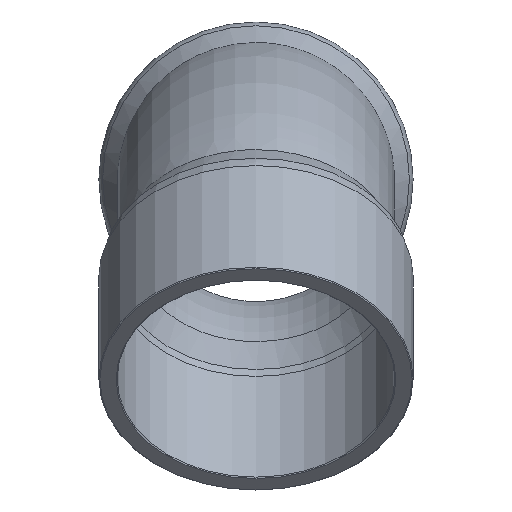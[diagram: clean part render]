
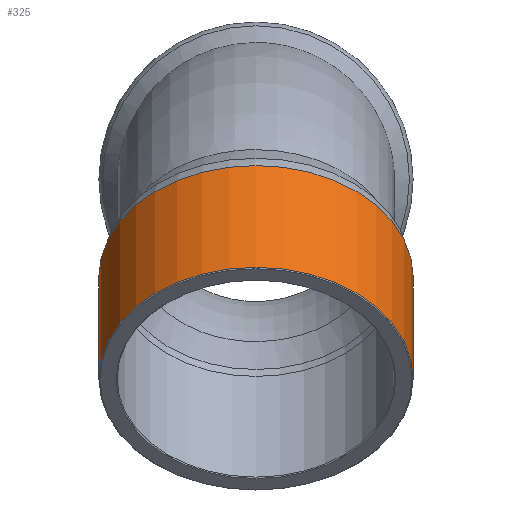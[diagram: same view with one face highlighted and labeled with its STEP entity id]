
A CAD part, top view. The second image highlights one B-rep face of the part: STEP entity #325.
In plain terms, the highlighted free-form (B-spline) face has degree [1, 2] with [2, 9] control points.
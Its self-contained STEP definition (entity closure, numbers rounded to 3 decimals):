
#273=CARTESIAN_POINT('',(0.,47.466,87.489));
#274=VERTEX_POINT('',#273);
#275=CARTESIAN_POINT('',(0.0,25.809,65.832));
#276=DIRECTION('',(0.0,-0.707,0.707));
#277=DIRECTION('',(0.0,-0.707,-0.707));
#278=AXIS2_PLACEMENT_3D('',#275,#276,#277);
#279=CIRCLE('',#278,30.628);
#280=EDGE_CURVE('',#274,#274,#279,.T.);
#285=CARTESIAN_POINT('',(0.,45.671,2.656));
#286=CARTESIAN_POINT('',(0.,-17.504,65.832));
#287=CARTESIAN_POINT('',(-30.628,45.671,2.656));
#288=CARTESIAN_POINT('',(-30.628,-17.504,65.832));
#289=CARTESIAN_POINT('',(-30.628,67.328,24.313));
#290=CARTESIAN_POINT('',(-30.628,4.152,87.489));
#291=CARTESIAN_POINT('',(-30.628,88.985,45.97));
#292=CARTESIAN_POINT('',(-30.628,25.809,109.145));
#293=CARTESIAN_POINT('',(0.,88.985,45.97));
#294=CARTESIAN_POINT('',(0.,25.809,109.145));
#295=CARTESIAN_POINT('',(30.628,88.985,45.97));
#296=CARTESIAN_POINT('',(30.628,25.809,109.145));
#297=CARTESIAN_POINT('',(30.628,67.328,24.313));
#298=CARTESIAN_POINT('',(30.628,4.152,87.489));
#299=CARTESIAN_POINT('',(30.628,45.671,2.656));
#300=CARTESIAN_POINT('',(30.628,-17.504,65.832));
#301=CARTESIAN_POINT('',(0.,45.671,2.656));
#302=CARTESIAN_POINT('',(0.,-17.504,65.832));
#310=(BOUNDED_SURFACE()B_SPLINE_SURFACE(1,2,((#285,#287,#289,#291,#293,#295,#297,#299,#301),(#286,#288,#290,#292,#294,#296,#298,#300,#302)),.UNSPECIFIED.,.F.,.T.,.U.)B_SPLINE_SURFACE_WITH_KNOTS((2,2),(3,2,2,2,3),(-1.462,1.455),(0.0,48.11,96.219,144.329,192.438),.UNSPECIFIED.)GEOMETRIC_REPRESENTATION_ITEM()RATIONAL_B_SPLINE_SURFACE(((1.0,0.707,1.0,0.707,1.0,0.707,1.0,0.707,1.0),(1.0,0.707,1.0,0.707,1.0,0.707,1.0,0.707,1.0)))REPRESENTATION_ITEM('')SURFACE());
#311=CARTESIAN_POINT('',(0.0,67.328,67.627));
#312=VERTEX_POINT('',#311);
#313=CARTESIAN_POINT('',(0.0,45.671,45.97));
#314=DIRECTION('',(0.0,0.707,-0.707));
#315=DIRECTION('',(0.0,0.707,0.707));
#316=AXIS2_PLACEMENT_3D('',#313,#314,#315);
#317=CIRCLE('',#316,30.627);
#318=EDGE_CURVE('',#312,#312,#317,.T.);
#319=ORIENTED_EDGE('',*,*,#318,.F.);
#320=EDGE_LOOP('',(#319));
#321=FACE_OUTER_BOUND('',#320,.T.);
#322=ORIENTED_EDGE('',*,*,#280,.F.);
#323=EDGE_LOOP('',(#322));
#324=FACE_BOUND('',#323,.T.);
#325=ADVANCED_FACE('',(#321,#324),#310,.T.);
